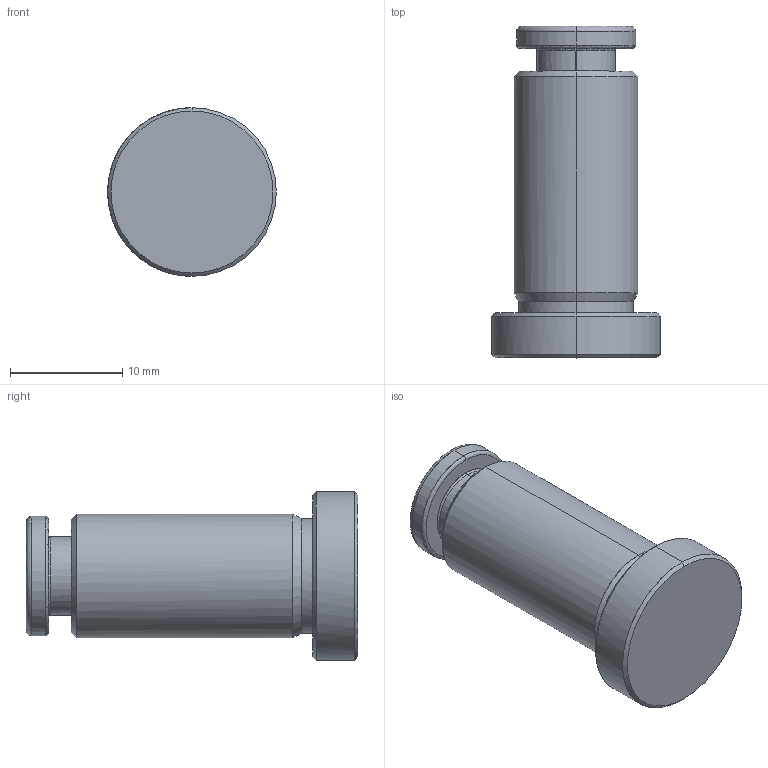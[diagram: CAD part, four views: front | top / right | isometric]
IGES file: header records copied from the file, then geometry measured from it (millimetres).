
Start section: START RECORD GO HERE.
Global section: file name: be031115.igs; native system: DASSAULT SYSTEMES CATIA V5 R20 - www.3ds.com; preprocessor: CATIA Version 5 Release 20 ; author: Utente; organization: NB04-ASUS; date: 20201103.203951; units: millimetre
Bounding box: 15 x 29.5 x 15 mm (x, y, z)
Surface area: 2852.9 mm2 (no closed solid volume)
Topology: 0 solids, 0 shells, 199 faces, 906 edges, 880 vertices
Faces by surface type: revolution 121, bspline 64, plane 14
